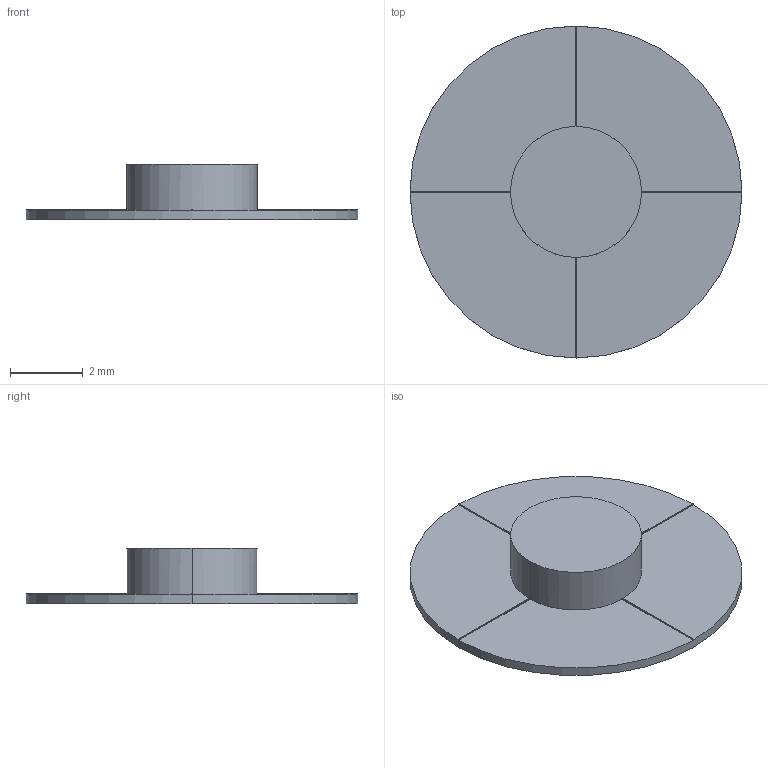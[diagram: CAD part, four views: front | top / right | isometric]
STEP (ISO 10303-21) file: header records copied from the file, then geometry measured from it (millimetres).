
FILE_DESCRIPTION((''),'2;1');
FILE_NAME('CONTACT_SIM_DUMMY-08','2020-09-24T20:54:01',('ccole'),(''),'CREO PARAMETRIC BY PTC INC, 2019292','CREO PARAMETRIC BY PTC INC, 2019292','');
FILE_SCHEMA(('CONFIG_CONTROL_DESIGN'));
Length unit declared in the file: inch
Products named in the file (1): CONTACT_SIM_DUMMY-08
Bounding box: 9.14 x 9.14 x 1.52 mm (x, y, z)
Volume: 29.7 mm3; surface area: 153.6 mm2
Topology: 1 solids, 1 shells, 26 faces, 64 edges, 40 vertices
Faces by surface type: plane 22, cylinder 4
Entity records: 802 total; most frequent: CARTESIAN_POINT 142, DIRECTION 128, ORIENTED_EDGE 128, EDGE_CURVE 64, AXIS2_PLACEMENT_3D 44, VECTOR 40, LINE 40, VERTEX_POINT 40
